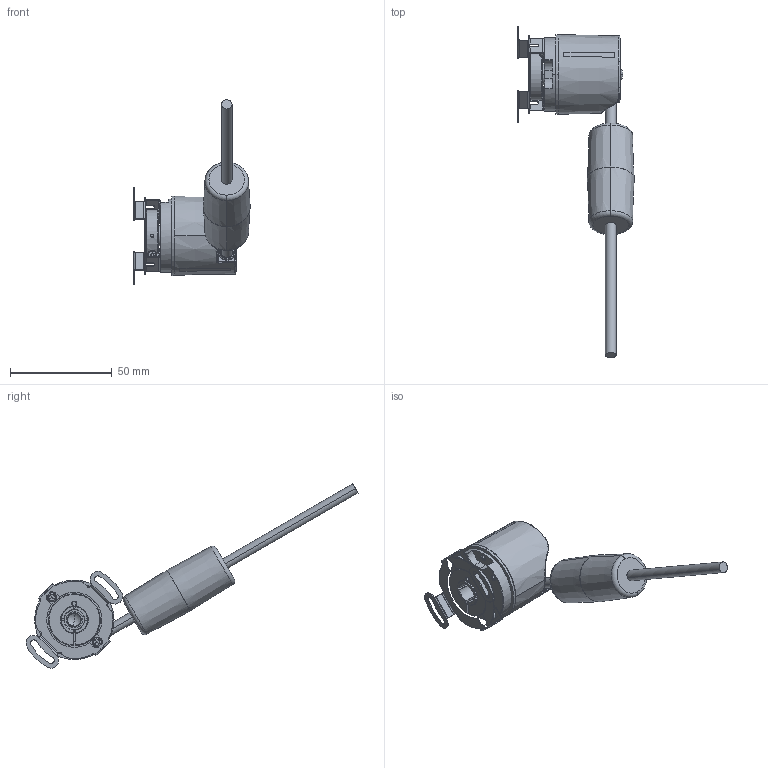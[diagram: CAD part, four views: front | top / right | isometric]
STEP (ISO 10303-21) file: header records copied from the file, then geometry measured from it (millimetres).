
FILE_DESCRIPTION (( 'STEP AP214' ), '1' );
FILE_NAME ('F3688.2423.XXXX.STEP', '2011-01-25T07:23:55', ( 'admin' ), ( 'Fritz Kübler GmbH' ), 'SwSTEP 2.0', 'SolidWorks 2009', '' );
FILE_SCHEMA (( 'AUTOMOTIVE_DESIGN' ));
Length unit declared in the file: millimetre
Products named in the file (1): F3688.2423.XXXX
Bounding box: 57.1 x 162.88 x 90.38 mm (x, y, z)
Surface area: 17680 mm2 (no closed solid volume)
Topology: 0 solids, 29 shells, 356 faces, 1418 edges, 1063 vertices
Faces by surface type: plane 146, cylinder 125, cone 44, torus 21, bspline 15, sphere 5
Entity records: 21855 total; most frequent: CARTESIAN_POINT 6647, DIRECTION 2237, ORIENTED_EDGE 2117, EDGE_CURVE 1417, VERTEX_POINT 1063, AXIS2_PLACEMENT_3D 764, VECTOR 709, LINE 709
